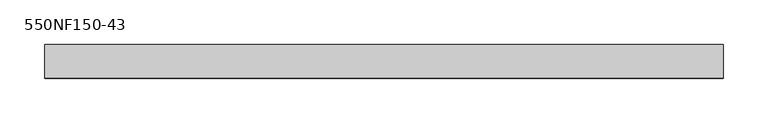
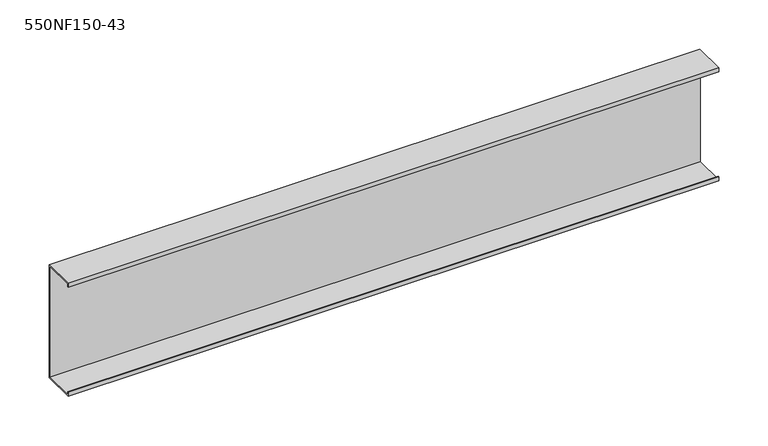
"""IFC4 building model written with IfcOpenShell, lengths in millimetres: beam geometry, BIMSF-SSMA-S : 550NF150-43."""

from ifc_helpers import new_model, si_unit, frame, origin, place, context, project, spatial, polyline, outline, extrude, source, transform, mapped, element, save


def beam_550nf150_43_b2412cdd(model_context):
    return source(origin(), model_context, "Body", "SweptSolid", [
        extrude(outline(polyline([(19.05, 69.85), (19.05, -69.85), (-19.05, -69.85), (-19.05, -65.0748), (-17.9003158, -65.0748), (-17.9003158, -68.7003158), (17.9003158, -68.7003158), (17.9003158, 68.7003158), (-17.9003158, 68.7003158), (-17.9003158, 65.0748), (-19.05, 65.0748), (-19.05, 69.85), (19.05, 69.85)])), frame((-381.0, 0.0, 0.0), z_axis=(1.0, 0.0, 0.0), x_axis=(0.0, 1.0, 0.0)), (0.0, 0.0, 1.0), 762.0),
    ])


if __name__ == "__main__":
    model = new_model("IFC4")
    model_context = context("Model", 3, world=origin())
    ifc_project = project(units=[si_unit("LENGTHUNIT", "METRE", prefix="MILLI")], contexts=[model_context])
    site = spatial("IfcSite", under=ifc_project)
    building = spatial("IfcBuilding", under=site)
    placement = place(None, origin())
    beam_550nf150_43_shape = beam_550nf150_43_b2412cdd(model_context)
    element("IfcBeam", 1, ObjectType="BIMSF-SSMA-S : 550NF150-43", at=placement, inside=building, context=model_context, shape_type="MappedRepresentation", body=[
        mapped(beam_550nf150_43_shape, transform((0.0, 0.0, 0.0), x_axis=(1.0, 0.0, 0.0), y_axis=(0.0, 1.0, 0.0), z_axis=(0.0, 0.0, 1.0))),
    ])
    save(model, "model.ifc")
